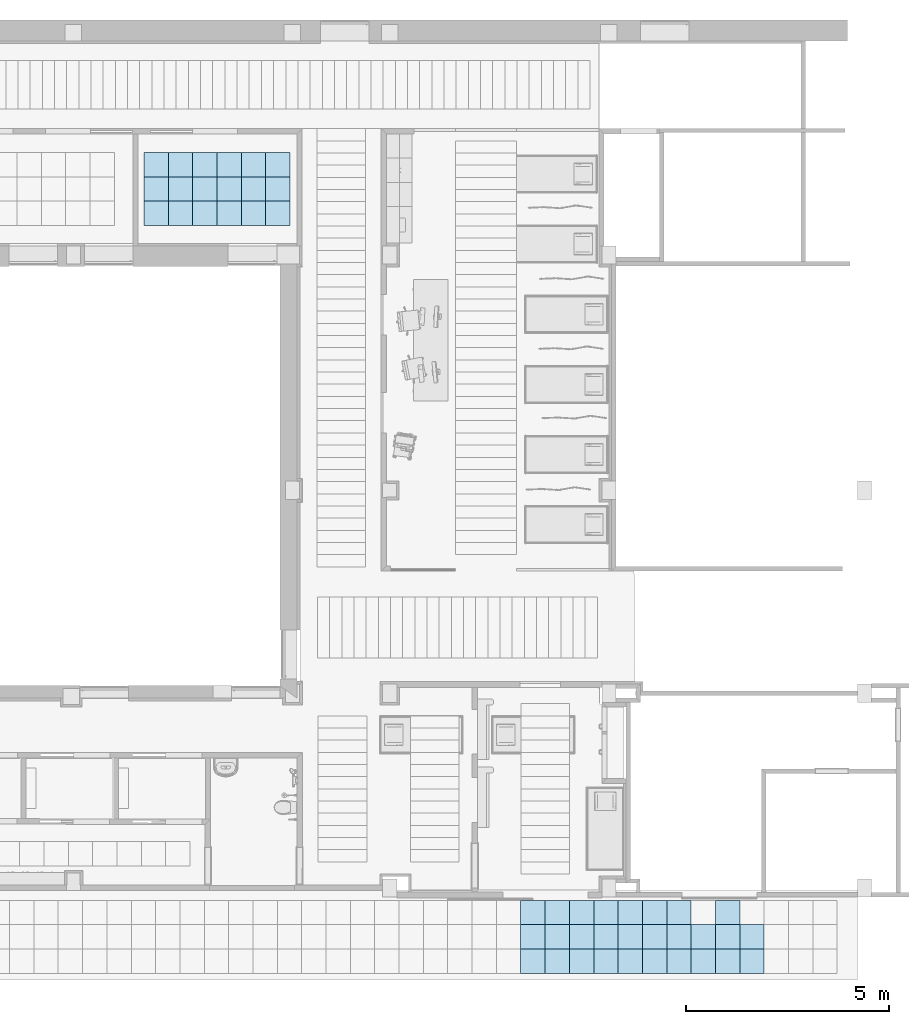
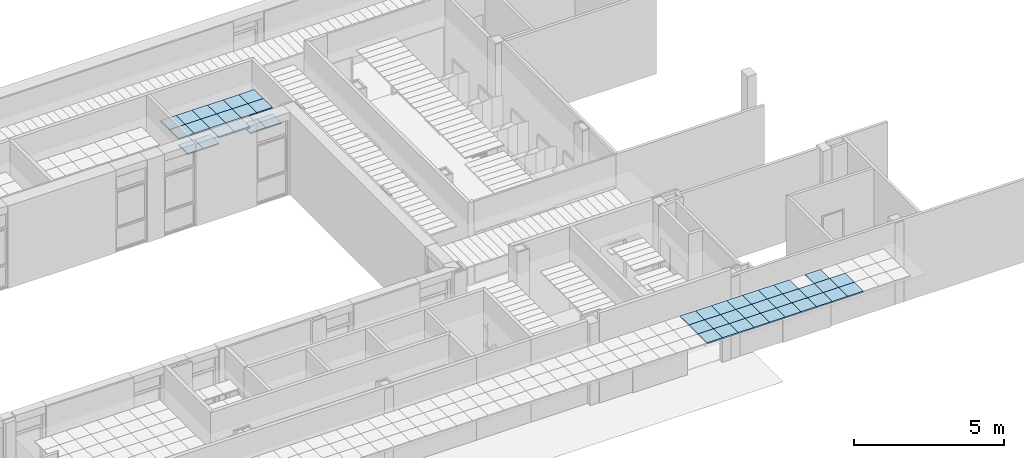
# One storey, part 21 of 68: 46 slabs.
"""IFC2X3 building model written with IfcOpenShell, lengths in millimetres."""

from ifc_helpers import new_model, entity, si_unit, converted_unit, derived_unit, money_unit, direction, frame, origin_with_axes, place, context, subcontext, project, spatial, polyline, outline, extrude, material, layer, layer_set, layer_usage, type_object, element, save


model = new_model("IFC2X3")

# Units and contexts
model_context = context("Model", 3, precision=0.01, world=origin_with_axes(), true_north=direction((0.0, 1.0)))
body_context = subcontext(model_context, "Body", "Model", "MODEL_VIEW")
ifc_project = project(units=[si_unit("LENGTHUNIT", "METRE", prefix="MILLI"), si_unit("AREAUNIT", "SQUARE_METRE"), si_unit("VOLUMEUNIT", "CUBIC_METRE"), converted_unit("PLANEANGLEUNIT", "DEGREE", entity("IfcPlaneAngleMeasure", 0.0174532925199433), si_unit("PLANEANGLEUNIT", "RADIAN"), dimensions=[0, 0, 0, 0, 0, 0, 0]), money_unit("USD"), converted_unit("TIMEUNIT", "Year", entity("IfcTimeMeasure", 31557600.0), si_unit("TIMEUNIT", "SECOND"), dimensions=[0, 0, 1, 0, 0, 0, 0]), si_unit("MASSUNIT", "GRAM", prefix="KILO"), si_unit("THERMODYNAMICTEMPERATUREUNIT", "DEGREE_CELSIUS"), si_unit("LUMINOUSINTENSITYUNIT", "LUMEN"), si_unit("ENERGYUNIT", "JOULE", prefix="MEGA"), derived_unit("THERMALCONDUCTANCEUNIT", [(si_unit("POWERUNIT", "WATT"), 1), (si_unit("LENGTHUNIT", "METRE"), -1), (si_unit("THERMODYNAMICTEMPERATUREUNIT", "KELVIN"), -1)]), derived_unit("SPECIFICHEATCAPACITYUNIT", [(si_unit("ENERGYUNIT", "JOULE"), 1), (si_unit("MASSUNIT", "GRAM", prefix="KILO"), -1), (si_unit("THERMODYNAMICTEMPERATUREUNIT", "KELVIN"), -1)]), derived_unit("MASSDENSITYUNIT", [(si_unit("MASSUNIT", "GRAM", prefix="KILO"), 1), (si_unit("VOLUMEUNIT", "CUBIC_METRE"), -1)])], contexts=[model_context])

# Site, building, storey
site_placement = place(None, origin_with_axes())
site = spatial("IfcSite", under=ifc_project, at=site_placement, Name="Sitio", CompositionType="ELEMENT")
building_placement = place(site_placement, origin_with_axes())
building = spatial("IfcBuilding", under=site, at=building_placement, Name="Construcción", CompositionType="ELEMENT")
storey_placement = place(building_placement, origin_with_axes())
storey = spatial("IfcBuildingStorey", under=building, at=storey_placement, Name="PLANTA 1ª", CompositionType="ELEMENT", Elevation=0.0)

# Slabs
ifc_material = material(Name="ARQ_CE217_Armstrong 60x60")
ifc_layer = layer(ifc_material, 50.0, ventilated="UNKNOWN")
ifc_layer_set = layer_set([ifc_layer], Name="ARQ_CE217_Armstrong 60x60 50")
ifc_layer_usage_1 = layer_usage(ifc_layer_set, "AXIS3", "NEGATIVE", 50.0)
slab_type = type_object("IfcSlabType", Name="ARQ_CE217_Armstrong 60x60 50", PredefinedType="NOTDEFINED")
slab_1_placement = place(storey_placement, frame((3830.29671663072, -17921.97576450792, 2500.0), z_axis=(0.0, 0.0, 1.0), x_axis=(1.0, 0.0, 0.0)))
element("IfcSlab", 1, at=slab_1_placement, inside=storey, type_object=slab_type, material=ifc_layer_usage_1, Name="SLA - 026", PredefinedType="NOTDEFINED", context=body_context, shape_type="SweptSolid", body=[
    extrude(outline(polyline([(0.0, 0.0), (600.0000000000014, 0.0), (600.0000000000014, 600.0000000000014), (0.0, 600.0000000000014), (0.0, 0.0)])), frame((0.0, 0.0, -50.0), z_axis=(0.0, 0.0, 1.0), x_axis=(1.0, 0.0, 0.0)), (0.0, 0.0, 1.0), 50.0),
])
ifc_layer_usage_2 = layer_usage(ifc_layer_set, "AXIS3", "NEGATIVE", 50.0)
slab_2_placement = place(storey_placement, frame((-3054.95423099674, -87.06143878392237, 2500.0), z_axis=(0.0, 0.0, 1.0), x_axis=(1.0, 0.0, 0.0)))
element("IfcSlab", 2, at=slab_2_placement, inside=storey, type_object=slab_type, material=ifc_layer_usage_2, Name="SLA - 026", PredefinedType="NOTDEFINED", context=body_context, shape_type="SweptSolid", body=[
    extrude(outline(polyline([(0.0, 0.0), (599.9999999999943, 0.0), (599.9999999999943, 600.0000000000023), (0.0, 600.0000000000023), (0.0, 0.0)])), frame((0.0, 0.0, -50.0), z_axis=(0.0, 0.0, 1.0), x_axis=(1.0, 0.0, 0.0)), (0.0, 0.0, 1.0), 50.0),
])
ifc_layer_usage_3 = layer_usage(ifc_layer_set, "AXIS3", "NEGATIVE", 50.0)
slab_3_placement = place(storey_placement, frame((-4254.954230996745, -687.0614387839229, 2500.0), z_axis=(0.0, 0.0, 1.0), x_axis=(1.0, 0.0, 0.0)))
element("IfcSlab", 3, at=slab_3_placement, inside=storey, type_object=slab_type, material=ifc_layer_usage_3, Name="SLA - 026", PredefinedType="NOTDEFINED", context=body_context, shape_type="SweptSolid", body=[
    extrude(outline(polyline([(0.0, 0.0), (600.0000000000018, 0.0), (600.0000000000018, 600.0000000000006), (0.0, 600.0000000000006), (0.0, 0.0)])), frame((0.0, 0.0, -50.0), z_axis=(0.0, 0.0, 1.0), x_axis=(1.0, 0.0, 0.0)), (0.0, 0.0, 1.0), 50.0),
])
ifc_layer_usage_4 = layer_usage(ifc_layer_set, "AXIS3", "NEGATIVE", 50.0)
slab_4_placement = place(storey_placement, frame((-2454.954230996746, 512.93856121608, 2500.0), z_axis=(0.0, 0.0, 1.0), x_axis=(1.0, 0.0, 0.0)))
element("IfcSlab", 4, at=slab_4_placement, inside=storey, type_object=slab_type, material=ifc_layer_usage_4, Name="SLA - 026", PredefinedType="NOTDEFINED", context=body_context, shape_type="SweptSolid", body=[
    extrude(outline(polyline([(0.0, 0.0), (600.0000000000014, 0.0), (600.0000000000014, 600.0000000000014), (0.0, 600.0000000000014), (0.0, 0.0)])), frame((0.0, 0.0, -50.0), z_axis=(0.0, 0.0, 1.0), x_axis=(1.0, 0.0, 0.0)), (0.0, 0.0, 1.0), 50.0),
])
ifc_layer_usage_5 = layer_usage(ifc_layer_set, "AXIS3", "NEGATIVE", 50.0)
slab_5_placement = place(storey_placement, frame((-3654.954230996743, -687.0614387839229, 2500.0), z_axis=(0.0, 0.0, 1.0), x_axis=(1.0, 0.0, 0.0)))
element("IfcSlab", 5, at=slab_5_placement, inside=storey, type_object=slab_type, material=ifc_layer_usage_5, Name="SLA - 026", PredefinedType="NOTDEFINED", context=body_context, shape_type="SweptSolid", body=[
    extrude(outline(polyline([(0.0, 0.0), (600.0000000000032, 0.0), (600.0000000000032, 600.0000000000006), (0.0, 600.0000000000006), (0.0, 0.0)])), frame((0.0, 0.0, -50.0), z_axis=(0.0, 0.0, 1.0), x_axis=(1.0, 0.0, 0.0)), (0.0, 0.0, 1.0), 50.0),
])
ifc_layer_usage_6 = layer_usage(ifc_layer_set, "AXIS3", "NEGATIVE", 50.0)
slab_6_placement = place(storey_placement, frame((-3054.95423099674, -687.0614387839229, 2250.0), z_axis=(0.0, 0.0, 1.0), x_axis=(1.0, 0.0, 0.0)))
element("IfcSlab", 6, at=slab_6_placement, inside=storey, type_object=slab_type, material=ifc_layer_usage_6, Name="SLA - 026", PredefinedType="NOTDEFINED", context=body_context, shape_type="SweptSolid", body=[
    extrude(outline(polyline([(0.0, 0.0), (599.9999999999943, 0.0), (599.9999999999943, 600.0000000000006), (0.0, 600.0000000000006), (0.0, 0.0)])), frame((0.0, 0.0, -50.0), z_axis=(0.0, 0.0, 1.0), x_axis=(1.0, 0.0, 0.0)), (0.0, 0.0, 1.0), 50.0),
])
ifc_layer_usage_7 = layer_usage(ifc_layer_set, "AXIS3", "NEGATIVE", 50.0)
slab_7_placement = place(storey_placement, frame((-4254.954230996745, -87.06143878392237, 2500.0), z_axis=(0.0, 0.0, 1.0), x_axis=(1.0, 0.0, 0.0)))
element("IfcSlab", 7, at=slab_7_placement, inside=storey, type_object=slab_type, material=ifc_layer_usage_7, Name="SLA - 026", PredefinedType="NOTDEFINED", context=body_context, shape_type="SweptSolid", body=[
    extrude(outline(polyline([(0.0, 0.0), (600.0000000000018, 0.0), (600.0000000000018, 600.0000000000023), (0.0, 600.0000000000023), (0.0, 0.0)])), frame((0.0, 0.0, -50.0), z_axis=(0.0, 0.0, 1.0), x_axis=(1.0, 0.0, 0.0)), (0.0, 0.0, 1.0), 50.0),
])
ifc_layer_usage_8 = layer_usage(ifc_layer_set, "AXIS3", "NEGATIVE", 50.0)
slab_8_placement = place(storey_placement, frame((-3654.954230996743, -87.06143878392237, 2500.0), z_axis=(0.0, 0.0, 1.0), x_axis=(1.0, 0.0, 0.0)))
element("IfcSlab", 8, at=slab_8_placement, inside=storey, type_object=slab_type, material=ifc_layer_usage_8, Name="SLA - 026", PredefinedType="NOTDEFINED", context=body_context, shape_type="SweptSolid", body=[
    extrude(outline(polyline([(0.0, 0.0), (600.0000000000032, 0.0), (600.0000000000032, 600.0000000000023), (0.0, 600.0000000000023), (0.0, 0.0)])), frame((0.0, 0.0, -50.0), z_axis=(0.0, 0.0, 1.0), x_axis=(1.0, 0.0, 0.0)), (0.0, 0.0, 1.0), 50.0),
])
ifc_layer_usage_9 = layer_usage(ifc_layer_set, "AXIS3", "NEGATIVE", 50.0)
slab_9_placement = place(storey_placement, frame((-3054.95423099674, 512.93856121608, 2500.0), z_axis=(0.0, 0.0, 1.0), x_axis=(1.0, 0.0, 0.0)))
element("IfcSlab", 9, at=slab_9_placement, inside=storey, type_object=slab_type, material=ifc_layer_usage_9, Name="SLA - 026", PredefinedType="NOTDEFINED", context=body_context, shape_type="SweptSolid", body=[
    extrude(outline(polyline([(0.0, 0.0), (599.9999999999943, 0.0), (599.9999999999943, 600.0000000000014), (0.0, 600.0000000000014), (0.0, 0.0)])), frame((0.0, 0.0, -50.0), z_axis=(0.0, 0.0, 1.0), x_axis=(1.0, 0.0, 0.0)), (0.0, 0.0, 1.0), 50.0),
])
ifc_layer_usage_10 = layer_usage(ifc_layer_set, "AXIS3", "NEGATIVE", 50.0)
slab_10_placement = place(storey_placement, frame((-3654.954230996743, 512.93856121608, 2500.0), z_axis=(0.0, 0.0, 1.0), x_axis=(1.0, 0.0, 0.0)))
element("IfcSlab", 10, at=slab_10_placement, inside=storey, type_object=slab_type, material=ifc_layer_usage_10, Name="SLA - 026", PredefinedType="NOTDEFINED", context=body_context, shape_type="SweptSolid", body=[
    extrude(outline(polyline([(0.0, 0.0), (600.0000000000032, 0.0), (600.0000000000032, 600.0000000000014), (0.0, 600.0000000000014), (0.0, 0.0)])), frame((0.0, 0.0, -50.0), z_axis=(0.0, 0.0, 1.0), x_axis=(1.0, 0.0, 0.0)), (0.0, 0.0, 1.0), 50.0),
])
ifc_layer_usage_11 = layer_usage(ifc_layer_set, "AXIS3", "NEGATIVE", 50.0)
slab_11_placement = place(storey_placement, frame((-2454.954230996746, -87.06143878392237, 2500.0), z_axis=(0.0, 0.0, 1.0), x_axis=(1.0, 0.0, 0.0)))
element("IfcSlab", 11, at=slab_11_placement, inside=storey, type_object=slab_type, material=ifc_layer_usage_11, Name="SLA - 026", PredefinedType="NOTDEFINED", context=body_context, shape_type="SweptSolid", body=[
    extrude(outline(polyline([(0.0, 0.0), (600.0000000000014, 0.0), (600.0000000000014, 600.0000000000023), (0.0, 600.0000000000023), (0.0, 0.0)])), frame((0.0, 0.0, -50.0), z_axis=(0.0, 0.0, 1.0), x_axis=(1.0, 0.0, 0.0)), (0.0, 0.0, 1.0), 50.0),
])
ifc_layer_usage_12 = layer_usage(ifc_layer_set, "AXIS3", "NEGATIVE", 50.0)
slab_12_placement = place(storey_placement, frame((-4854.954230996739, -687.0614387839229, 2250.0), z_axis=(0.0, 0.0, 1.0), x_axis=(1.0, 0.0, 0.0)))
element("IfcSlab", 12, at=slab_12_placement, inside=storey, type_object=slab_type, material=ifc_layer_usage_12, Name="SLA - 026", PredefinedType="NOTDEFINED", context=body_context, shape_type="SweptSolid", body=[
    extrude(outline(polyline([(0.0, 0.0), (599.9999999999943, 0.0), (599.9999999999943, 600.0000000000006), (0.0, 600.0000000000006), (0.0, 0.0)])), frame((0.0, 0.0, -50.0), z_axis=(0.0, 0.0, 1.0), x_axis=(1.0, 0.0, 0.0)), (0.0, 0.0, 1.0), 50.0),
])
ifc_layer_usage_13 = layer_usage(ifc_layer_set, "AXIS3", "NEGATIVE", 50.0)
slab_13_placement = place(storey_placement, frame((-5454.954230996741, -687.0614387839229, 2250.0), z_axis=(0.0, 0.0, 1.0), x_axis=(1.0, 0.0, 0.0)))
element("IfcSlab", 13, at=slab_13_placement, inside=storey, type_object=slab_type, material=ifc_layer_usage_13, Name="SLA - 026", PredefinedType="NOTDEFINED", context=body_context, shape_type="SweptSolid", body=[
    extrude(outline(polyline([(0.0, 0.0), (600.0000000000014, 0.0), (600.0000000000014, 600.0000000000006), (0.0, 600.0000000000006), (0.0, 0.0)])), frame((0.0, 0.0, -50.0), z_axis=(0.0, 0.0, 1.0), x_axis=(1.0, 0.0, 0.0)), (0.0, 0.0, 1.0), 50.0),
])
ifc_layer_usage_14 = layer_usage(ifc_layer_set, "AXIS3", "NEGATIVE", 50.0)
slab_14_placement = place(storey_placement, frame((-2454.954230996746, -687.0614387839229, 2250.0), z_axis=(0.0, 0.0, 1.0), x_axis=(1.0, 0.0, 0.0)))
element("IfcSlab", 14, at=slab_14_placement, inside=storey, type_object=slab_type, material=ifc_layer_usage_14, Name="SLA - 026", PredefinedType="NOTDEFINED", context=body_context, shape_type="SweptSolid", body=[
    extrude(outline(polyline([(0.0, 0.0), (600.0000000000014, 0.0), (600.0000000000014, 600.0000000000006), (0.0, 600.0000000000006), (0.0, 0.0)])), frame((0.0, 0.0, -50.0), z_axis=(0.0, 0.0, 1.0), x_axis=(1.0, 0.0, 0.0)), (0.0, 0.0, 1.0), 50.0),
])
ifc_layer_usage_15 = layer_usage(ifc_layer_set, "AXIS3", "NEGATIVE", 50.0)
slab_15_placement = place(storey_placement, frame((-4854.954230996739, -87.06143878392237, 2500.0), z_axis=(0.0, 0.0, 1.0), x_axis=(1.0, 0.0, 0.0)))
element("IfcSlab", 15, at=slab_15_placement, inside=storey, type_object=slab_type, material=ifc_layer_usage_15, Name="SLA - 026", PredefinedType="NOTDEFINED", context=body_context, shape_type="SweptSolid", body=[
    extrude(outline(polyline([(0.0, 0.0), (599.9999999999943, 0.0), (599.9999999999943, 600.0000000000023), (0.0, 600.0000000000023), (0.0, 0.0)])), frame((0.0, 0.0, -50.0), z_axis=(0.0, 0.0, 1.0), x_axis=(1.0, 0.0, 0.0)), (0.0, 0.0, 1.0), 50.0),
])
ifc_layer_usage_16 = layer_usage(ifc_layer_set, "AXIS3", "NEGATIVE", 50.0)
slab_16_placement = place(storey_placement, frame((-4254.954230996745, 512.93856121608, 2500.0), z_axis=(0.0, 0.0, 1.0), x_axis=(1.0, 0.0, 0.0)))
element("IfcSlab", 16, at=slab_16_placement, inside=storey, type_object=slab_type, material=ifc_layer_usage_16, Name="SLA - 026", PredefinedType="NOTDEFINED", context=body_context, shape_type="SweptSolid", body=[
    extrude(outline(polyline([(0.0, 0.0), (600.0000000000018, 0.0), (600.0000000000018, 600.0000000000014), (0.0, 600.0000000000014), (0.0, 0.0)])), frame((0.0, 0.0, -50.0), z_axis=(0.0, 0.0, 1.0), x_axis=(1.0, 0.0, 0.0)), (0.0, 0.0, 1.0), 50.0),
])
ifc_layer_usage_17 = layer_usage(ifc_layer_set, "AXIS3", "NEGATIVE", 50.0)
slab_17_placement = place(storey_placement, frame((-5454.954230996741, 512.93856121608, 2500.0), z_axis=(0.0, 0.0, 1.0), x_axis=(1.0, 0.0, 0.0)))
element("IfcSlab", 17, at=slab_17_placement, inside=storey, type_object=slab_type, material=ifc_layer_usage_17, Name="SLA - 026", PredefinedType="NOTDEFINED", context=body_context, shape_type="SweptSolid", body=[
    extrude(outline(polyline([(0.0, 0.0), (600.0000000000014, 0.0), (600.0000000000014, 600.0000000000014), (0.0, 600.0000000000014), (0.0, 0.0)])), frame((0.0, 0.0, -50.0), z_axis=(0.0, 0.0, 1.0), x_axis=(1.0, 0.0, 0.0)), (0.0, 0.0, 1.0), 50.0),
])
ifc_layer_usage_18 = layer_usage(ifc_layer_set, "AXIS3", "NEGATIVE", 50.0)
slab_18_placement = place(storey_placement, frame((-5454.954230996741, -87.06143878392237, 2500.0), z_axis=(0.0, 0.0, 1.0), x_axis=(1.0, 0.0, 0.0)))
element("IfcSlab", 18, at=slab_18_placement, inside=storey, type_object=slab_type, material=ifc_layer_usage_18, Name="SLA - 026", PredefinedType="NOTDEFINED", context=body_context, shape_type="SweptSolid", body=[
    extrude(outline(polyline([(0.0, 0.0), (600.0000000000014, 0.0), (600.0000000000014, 600.0000000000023), (0.0, 600.0000000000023), (0.0, 0.0)])), frame((0.0, 0.0, -50.0), z_axis=(0.0, 0.0, 1.0), x_axis=(1.0, 0.0, 0.0)), (0.0, 0.0, 1.0), 50.0),
])
ifc_layer_usage_19 = layer_usage(ifc_layer_set, "AXIS3", "NEGATIVE", 50.0)
slab_19_placement = place(storey_placement, frame((-4854.954230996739, 512.93856121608, 2500.0), z_axis=(0.0, 0.0, 1.0), x_axis=(1.0, 0.0, 0.0)))
element("IfcSlab", 19, at=slab_19_placement, inside=storey, type_object=slab_type, material=ifc_layer_usage_19, Name="SLA - 026", PredefinedType="NOTDEFINED", context=body_context, shape_type="SweptSolid", body=[
    extrude(outline(polyline([(0.0, 0.0), (599.9999999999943, 0.0), (599.9999999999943, 600.0000000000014), (0.0, 600.0000000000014), (0.0, 0.0)])), frame((0.0, 0.0, -50.0), z_axis=(0.0, 0.0, 1.0), x_axis=(1.0, 0.0, 0.0)), (0.0, 0.0, 1.0), 50.0),
])
ifc_layer_usage_20 = layer_usage(ifc_layer_set, "AXIS3", "NEGATIVE", 50.0)
slab_20_placement = place(storey_placement, frame((9230.296716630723, -18521.97576450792, 2500.0), z_axis=(0.0, 0.0, 1.0), x_axis=(1.0, 0.0, 0.0)))
element("IfcSlab", 20, at=slab_20_placement, inside=storey, type_object=slab_type, material=ifc_layer_usage_20, Name="SLA - 026", PredefinedType="NOTDEFINED", context=body_context, shape_type="SweptSolid", body=[
    extrude(outline(polyline([(0.0, 0.0), (600.0000000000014, 0.0), (600.0000000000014, 600.0000000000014), (0.0, 600.0000000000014), (0.0, 0.0)])), frame((0.0, 0.0, -50.0), z_axis=(0.0, 0.0, 1.0), x_axis=(1.0, 0.0, 0.0)), (0.0, 0.0, 1.0), 50.0),
])
ifc_layer_usage_21 = layer_usage(ifc_layer_set, "AXIS3", "NEGATIVE", 50.0)
slab_21_placement = place(storey_placement, frame((9230.296716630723, -19121.97576450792, 2500.0), z_axis=(0.0, 0.0, 1.0), x_axis=(1.0, 0.0, 0.0)))
element("IfcSlab", 21, at=slab_21_placement, inside=storey, type_object=slab_type, material=ifc_layer_usage_21, Name="SLA - 026", PredefinedType="NOTDEFINED", context=body_context, shape_type="SweptSolid", body=[
    extrude(outline(polyline([(0.0, 0.0), (600.0000000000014, 0.0), (600.0000000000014, 600.0000000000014), (0.0, 600.0000000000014), (0.0, 0.0)])), frame((0.0, 0.0, -50.0), z_axis=(0.0, 0.0, 1.0), x_axis=(1.0, 0.0, 0.0)), (0.0, 0.0, 1.0), 50.0),
])
ifc_layer_usage_22 = layer_usage(ifc_layer_set, "AXIS3", "NEGATIVE", 50.0)
slab_22_placement = place(storey_placement, frame((8630.29671663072, -17921.97576450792, 2500.0), z_axis=(0.0, 0.0, 1.0), x_axis=(1.0, 0.0, 0.0)))
element("IfcSlab", 22, at=slab_22_placement, inside=storey, type_object=slab_type, material=ifc_layer_usage_22, Name="SLA - 026", PredefinedType="NOTDEFINED", context=body_context, shape_type="SweptSolid", body=[
    extrude(outline(polyline([(0.0, 0.0), (600.0000000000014, 0.0), (600.0000000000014, 600.0000000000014), (0.0, 600.0000000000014), (0.0, 0.0)])), frame((0.0, 0.0, -50.0), z_axis=(0.0, 0.0, 1.0), x_axis=(1.0, 0.0, 0.0)), (0.0, 0.0, 1.0), 50.0),
])
ifc_layer_usage_23 = layer_usage(ifc_layer_set, "AXIS3", "NEGATIVE", 50.0)
slab_23_placement = place(storey_placement, frame((8630.29671663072, -18521.97576450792, 2500.0), z_axis=(0.0, 0.0, 1.0), x_axis=(1.0, 0.0, 0.0)))
element("IfcSlab", 23, at=slab_23_placement, inside=storey, type_object=slab_type, material=ifc_layer_usage_23, Name="SLA - 026", PredefinedType="NOTDEFINED", context=body_context, shape_type="SweptSolid", body=[
    extrude(outline(polyline([(0.0, 0.0), (600.0000000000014, 0.0), (600.0000000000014, 600.0000000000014), (0.0, 600.0000000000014), (0.0, 0.0)])), frame((0.0, 0.0, -50.0), z_axis=(0.0, 0.0, 1.0), x_axis=(1.0, 0.0, 0.0)), (0.0, 0.0, 1.0), 50.0),
])
ifc_layer_usage_24 = layer_usage(ifc_layer_set, "AXIS3", "NEGATIVE", 50.0)
slab_24_placement = place(storey_placement, frame((8630.29671663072, -19121.97576450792, 2500.0), z_axis=(0.0, 0.0, 1.0), x_axis=(1.0, 0.0, 0.0)))
element("IfcSlab", 24, at=slab_24_placement, inside=storey, type_object=slab_type, material=ifc_layer_usage_24, Name="SLA - 026", PredefinedType="NOTDEFINED", context=body_context, shape_type="SweptSolid", body=[
    extrude(outline(polyline([(0.0, 0.0), (600.0000000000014, 0.0), (600.0000000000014, 600.0000000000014), (0.0, 600.0000000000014), (0.0, 0.0)])), frame((0.0, 0.0, -50.0), z_axis=(0.0, 0.0, 1.0), x_axis=(1.0, 0.0, 0.0)), (0.0, 0.0, 1.0), 50.0),
])
ifc_layer_usage_25 = layer_usage(ifc_layer_set, "AXIS3", "NEGATIVE", 50.0)
slab_25_placement = place(storey_placement, frame((8030.296716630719, -18521.97576450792, 2500.0), z_axis=(0.0, 0.0, 1.0), x_axis=(1.0, 0.0, 0.0)))
element("IfcSlab", 25, at=slab_25_placement, inside=storey, type_object=slab_type, material=ifc_layer_usage_25, Name="SLA - 026", PredefinedType="NOTDEFINED", context=body_context, shape_type="SweptSolid", body=[
    extrude(outline(polyline([(0.0, 0.0), (600.0000000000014, 0.0), (600.0000000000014, 600.0000000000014), (0.0, 600.0000000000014), (0.0, 0.0)])), frame((0.0, 0.0, -50.0), z_axis=(0.0, 0.0, 1.0), x_axis=(1.0, 0.0, 0.0)), (0.0, 0.0, 1.0), 50.0),
])
ifc_layer_usage_26 = layer_usage(ifc_layer_set, "AXIS3", "NEGATIVE", 50.0)
slab_26_placement = place(storey_placement, frame((8030.296716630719, -19121.97576450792, 2500.0), z_axis=(0.0, 0.0, 1.0), x_axis=(1.0, 0.0, 0.0)))
element("IfcSlab", 26, at=slab_26_placement, inside=storey, type_object=slab_type, material=ifc_layer_usage_26, Name="SLA - 026", PredefinedType="NOTDEFINED", context=body_context, shape_type="SweptSolid", body=[
    extrude(outline(polyline([(0.0, 0.0), (600.0000000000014, 0.0), (600.0000000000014, 600.0000000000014), (0.0, 600.0000000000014), (0.0, 0.0)])), frame((0.0, 0.0, -50.0), z_axis=(0.0, 0.0, 1.0), x_axis=(1.0, 0.0, 0.0)), (0.0, 0.0, 1.0), 50.0),
])
ifc_layer_usage_27 = layer_usage(ifc_layer_set, "AXIS3", "NEGATIVE", 50.0)
slab_27_placement = place(storey_placement, frame((7430.296716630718, -17921.97576450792, 2500.0), z_axis=(0.0, 0.0, 1.0), x_axis=(1.0, 0.0, 0.0)))
element("IfcSlab", 27, at=slab_27_placement, inside=storey, type_object=slab_type, material=ifc_layer_usage_27, Name="SLA - 026", PredefinedType="NOTDEFINED", context=body_context, shape_type="SweptSolid", body=[
    extrude(outline(polyline([(0.0, 0.0), (600.0000000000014, 0.0), (600.0000000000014, 600.0000000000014), (0.0, 600.0000000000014), (0.0, 0.0)])), frame((0.0, 0.0, -50.0), z_axis=(0.0, 0.0, 1.0), x_axis=(1.0, 0.0, 0.0)), (0.0, 0.0, 1.0), 50.0),
])
ifc_layer_usage_28 = layer_usage(ifc_layer_set, "AXIS3", "NEGATIVE", 50.0)
slab_28_placement = place(storey_placement, frame((7430.296716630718, -18521.97576450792, 2500.0), z_axis=(0.0, 0.0, 1.0), x_axis=(1.0, 0.0, 0.0)))
element("IfcSlab", 28, at=slab_28_placement, inside=storey, type_object=slab_type, material=ifc_layer_usage_28, Name="SLA - 026", PredefinedType="NOTDEFINED", context=body_context, shape_type="SweptSolid", body=[
    extrude(outline(polyline([(0.0, 0.0), (600.0000000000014, 0.0), (600.0000000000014, 600.0000000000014), (0.0, 600.0000000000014), (0.0, 0.0)])), frame((0.0, 0.0, -50.0), z_axis=(0.0, 0.0, 1.0), x_axis=(1.0, 0.0, 0.0)), (0.0, 0.0, 1.0), 50.0),
])
ifc_layer_usage_29 = layer_usage(ifc_layer_set, "AXIS3", "NEGATIVE", 50.0)
slab_29_placement = place(storey_placement, frame((7430.296716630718, -19121.97576450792, 2500.0), z_axis=(0.0, 0.0, 1.0), x_axis=(1.0, 0.0, 0.0)))
element("IfcSlab", 29, at=slab_29_placement, inside=storey, type_object=slab_type, material=ifc_layer_usage_29, Name="SLA - 026", PredefinedType="NOTDEFINED", context=body_context, shape_type="SweptSolid", body=[
    extrude(outline(polyline([(0.0, 0.0), (600.0000000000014, 0.0), (600.0000000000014, 600.0000000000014), (0.0, 600.0000000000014), (0.0, 0.0)])), frame((0.0, 0.0, -50.0), z_axis=(0.0, 0.0, 1.0), x_axis=(1.0, 0.0, 0.0)), (0.0, 0.0, 1.0), 50.0),
])
ifc_layer_usage_30 = layer_usage(ifc_layer_set, "AXIS3", "NEGATIVE", 50.0)
slab_30_placement = place(storey_placement, frame((6830.296716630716, -17921.97576450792, 2500.0), z_axis=(0.0, 0.0, 1.0), x_axis=(1.0, 0.0, 0.0)))
element("IfcSlab", 30, at=slab_30_placement, inside=storey, type_object=slab_type, material=ifc_layer_usage_30, Name="SLA - 026", PredefinedType="NOTDEFINED", context=body_context, shape_type="SweptSolid", body=[
    extrude(outline(polyline([(0.0, 0.0), (600.0000000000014, 0.0), (600.0000000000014, 600.0000000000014), (0.0, 600.0000000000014), (0.0, 0.0)])), frame((0.0, 0.0, -50.0), z_axis=(0.0, 0.0, 1.0), x_axis=(1.0, 0.0, 0.0)), (0.0, 0.0, 1.0), 50.0),
])
ifc_layer_usage_31 = layer_usage(ifc_layer_set, "AXIS3", "NEGATIVE", 50.0)
slab_31_placement = place(storey_placement, frame((6830.296716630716, -18521.97576450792, 2500.0), z_axis=(0.0, 0.0, 1.0), x_axis=(1.0, 0.0, 0.0)))
element("IfcSlab", 31, at=slab_31_placement, inside=storey, type_object=slab_type, material=ifc_layer_usage_31, Name="SLA - 026", PredefinedType="NOTDEFINED", context=body_context, shape_type="SweptSolid", body=[
    extrude(outline(polyline([(0.0, 0.0), (600.0000000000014, 0.0), (600.0000000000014, 600.0000000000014), (0.0, 600.0000000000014), (0.0, 0.0)])), frame((0.0, 0.0, -50.0), z_axis=(0.0, 0.0, 1.0), x_axis=(1.0, 0.0, 0.0)), (0.0, 0.0, 1.0), 50.0),
])
ifc_layer_usage_32 = layer_usage(ifc_layer_set, "AXIS3", "NEGATIVE", 50.0)
slab_32_placement = place(storey_placement, frame((6830.296716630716, -19121.97576450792, 2500.0), z_axis=(0.0, 0.0, 1.0), x_axis=(1.0, 0.0, 0.0)))
element("IfcSlab", 32, at=slab_32_placement, inside=storey, type_object=slab_type, material=ifc_layer_usage_32, Name="SLA - 026", PredefinedType="NOTDEFINED", context=body_context, shape_type="SweptSolid", body=[
    extrude(outline(polyline([(0.0, 0.0), (600.0000000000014, 0.0), (600.0000000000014, 600.0000000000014), (0.0, 600.0000000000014), (0.0, 0.0)])), frame((0.0, 0.0, -50.0), z_axis=(0.0, 0.0, 1.0), x_axis=(1.0, 0.0, 0.0)), (0.0, 0.0, 1.0), 50.0),
])
ifc_layer_usage_33 = layer_usage(ifc_layer_set, "AXIS3", "NEGATIVE", 50.0)
slab_33_placement = place(storey_placement, frame((6230.296716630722, -17921.97576450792, 2500.0), z_axis=(0.0, 0.0, 1.0), x_axis=(1.0, 0.0, 0.0)))
element("IfcSlab", 33, at=slab_33_placement, inside=storey, type_object=slab_type, material=ifc_layer_usage_33, Name="SLA - 026", PredefinedType="NOTDEFINED", context=body_context, shape_type="SweptSolid", body=[
    extrude(outline(polyline([(0.0, 0.0), (600.0000000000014, 0.0), (600.0000000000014, 600.0000000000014), (0.0, 600.0000000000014), (0.0, 0.0)])), frame((0.0, 0.0, -50.0), z_axis=(0.0, 0.0, 1.0), x_axis=(1.0, 0.0, 0.0)), (0.0, 0.0, 1.0), 50.0),
])
ifc_layer_usage_34 = layer_usage(ifc_layer_set, "AXIS3", "NEGATIVE", 50.0)
slab_34_placement = place(storey_placement, frame((6230.296716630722, -18521.97576450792, 2500.0), z_axis=(0.0, 0.0, 1.0), x_axis=(1.0, 0.0, 0.0)))
element("IfcSlab", 34, at=slab_34_placement, inside=storey, type_object=slab_type, material=ifc_layer_usage_34, Name="SLA - 026", PredefinedType="NOTDEFINED", context=body_context, shape_type="SweptSolid", body=[
    extrude(outline(polyline([(0.0, 0.0), (600.0000000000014, 0.0), (600.0000000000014, 600.0000000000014), (0.0, 600.0000000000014), (0.0, 0.0)])), frame((0.0, 0.0, -50.0), z_axis=(0.0, 0.0, 1.0), x_axis=(1.0, 0.0, 0.0)), (0.0, 0.0, 1.0), 50.0),
])
ifc_layer_usage_35 = layer_usage(ifc_layer_set, "AXIS3", "NEGATIVE", 50.0)
slab_35_placement = place(storey_placement, frame((6230.296716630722, -19121.97576450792, 2500.0), z_axis=(0.0, 0.0, 1.0), x_axis=(1.0, 0.0, 0.0)))
element("IfcSlab", 35, at=slab_35_placement, inside=storey, type_object=slab_type, material=ifc_layer_usage_35, Name="SLA - 026", PredefinedType="NOTDEFINED", context=body_context, shape_type="SweptSolid", body=[
    extrude(outline(polyline([(0.0, 0.0), (600.0000000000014, 0.0), (600.0000000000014, 600.0000000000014), (0.0, 600.0000000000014), (0.0, 0.0)])), frame((0.0, 0.0, -50.0), z_axis=(0.0, 0.0, 1.0), x_axis=(1.0, 0.0, 0.0)), (0.0, 0.0, 1.0), 50.0),
])
ifc_layer_usage_36 = layer_usage(ifc_layer_set, "AXIS3", "NEGATIVE", 50.0)
slab_36_placement = place(storey_placement, frame((5630.296716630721, -17921.97576450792, 2500.0), z_axis=(0.0, 0.0, 1.0), x_axis=(1.0, 0.0, 0.0)))
element("IfcSlab", 36, at=slab_36_placement, inside=storey, type_object=slab_type, material=ifc_layer_usage_36, Name="SLA - 026", PredefinedType="NOTDEFINED", context=body_context, shape_type="SweptSolid", body=[
    extrude(outline(polyline([(0.0, 0.0), (600.0000000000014, 0.0), (600.0000000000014, 600.0000000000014), (0.0, 600.0000000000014), (0.0, 0.0)])), frame((0.0, 0.0, -50.0), z_axis=(0.0, 0.0, 1.0), x_axis=(1.0, 0.0, 0.0)), (0.0, 0.0, 1.0), 50.0),
])
ifc_layer_usage_37 = layer_usage(ifc_layer_set, "AXIS3", "NEGATIVE", 50.0)
slab_37_placement = place(storey_placement, frame((5630.296716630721, -18521.97576450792, 2500.0), z_axis=(0.0, 0.0, 1.0), x_axis=(1.0, 0.0, 0.0)))
element("IfcSlab", 37, at=slab_37_placement, inside=storey, type_object=slab_type, material=ifc_layer_usage_37, Name="SLA - 026", PredefinedType="NOTDEFINED", context=body_context, shape_type="SweptSolid", body=[
    extrude(outline(polyline([(0.0, 0.0), (600.0000000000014, 0.0), (600.0000000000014, 600.0000000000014), (0.0, 600.0000000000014), (0.0, 0.0)])), frame((0.0, 0.0, -50.0), z_axis=(0.0, 0.0, 1.0), x_axis=(1.0, 0.0, 0.0)), (0.0, 0.0, 1.0), 50.0),
])
ifc_layer_usage_38 = layer_usage(ifc_layer_set, "AXIS3", "NEGATIVE", 50.0)
slab_38_placement = place(storey_placement, frame((5630.296716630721, -19121.97576450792, 2500.0), z_axis=(0.0, 0.0, 1.0), x_axis=(1.0, 0.0, 0.0)))
element("IfcSlab", 38, at=slab_38_placement, inside=storey, type_object=slab_type, material=ifc_layer_usage_38, Name="SLA - 026", PredefinedType="NOTDEFINED", context=body_context, shape_type="SweptSolid", body=[
    extrude(outline(polyline([(0.0, 0.0), (600.0000000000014, 0.0), (600.0000000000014, 600.0000000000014), (0.0, 600.0000000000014), (0.0, 0.0)])), frame((0.0, 0.0, -50.0), z_axis=(0.0, 0.0, 1.0), x_axis=(1.0, 0.0, 0.0)), (0.0, 0.0, 1.0), 50.0),
])
ifc_layer_usage_39 = layer_usage(ifc_layer_set, "AXIS3", "NEGATIVE", 50.0)
slab_39_placement = place(storey_placement, frame((5030.296716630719, -17921.97576450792, 2500.0), z_axis=(0.0, 0.0, 1.0), x_axis=(1.0, 0.0, 0.0)))
element("IfcSlab", 39, at=slab_39_placement, inside=storey, type_object=slab_type, material=ifc_layer_usage_39, Name="SLA - 026", PredefinedType="NOTDEFINED", context=body_context, shape_type="SweptSolid", body=[
    extrude(outline(polyline([(0.0, 0.0), (600.0000000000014, 0.0), (600.0000000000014, 600.0000000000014), (0.0, 600.0000000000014), (0.0, 0.0)])), frame((0.0, 0.0, -50.0), z_axis=(0.0, 0.0, 1.0), x_axis=(1.0, 0.0, 0.0)), (0.0, 0.0, 1.0), 50.0),
])
ifc_layer_usage_40 = layer_usage(ifc_layer_set, "AXIS3", "NEGATIVE", 50.0)
slab_40_placement = place(storey_placement, frame((5030.296716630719, -18521.97576450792, 2500.0), z_axis=(0.0, 0.0, 1.0), x_axis=(1.0, 0.0, 0.0)))
element("IfcSlab", 40, at=slab_40_placement, inside=storey, type_object=slab_type, material=ifc_layer_usage_40, Name="SLA - 026", PredefinedType="NOTDEFINED", context=body_context, shape_type="SweptSolid", body=[
    extrude(outline(polyline([(0.0, 0.0), (600.0000000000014, 0.0), (600.0000000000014, 600.0000000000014), (0.0, 600.0000000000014), (0.0, 0.0)])), frame((0.0, 0.0, -50.0), z_axis=(0.0, 0.0, 1.0), x_axis=(1.0, 0.0, 0.0)), (0.0, 0.0, 1.0), 50.0),
])
ifc_layer_usage_41 = layer_usage(ifc_layer_set, "AXIS3", "NEGATIVE", 50.0)
slab_41_placement = place(storey_placement, frame((5030.296716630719, -19121.97576450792, 2500.0), z_axis=(0.0, 0.0, 1.0), x_axis=(1.0, 0.0, 0.0)))
element("IfcSlab", 41, at=slab_41_placement, inside=storey, type_object=slab_type, material=ifc_layer_usage_41, Name="SLA - 026", PredefinedType="NOTDEFINED", context=body_context, shape_type="SweptSolid", body=[
    extrude(outline(polyline([(0.0, 0.0), (600.0000000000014, 0.0), (600.0000000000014, 600.0000000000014), (0.0, 600.0000000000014), (0.0, 0.0)])), frame((0.0, 0.0, -50.0), z_axis=(0.0, 0.0, 1.0), x_axis=(1.0, 0.0, 0.0)), (0.0, 0.0, 1.0), 50.0),
])
ifc_layer_usage_42 = layer_usage(ifc_layer_set, "AXIS3", "NEGATIVE", 50.0)
slab_42_placement = place(storey_placement, frame((4430.296716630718, -17921.97576450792, 2500.0), z_axis=(0.0, 0.0, 1.0), x_axis=(1.0, 0.0, 0.0)))
element("IfcSlab", 42, at=slab_42_placement, inside=storey, type_object=slab_type, material=ifc_layer_usage_42, Name="SLA - 026", PredefinedType="NOTDEFINED", context=body_context, shape_type="SweptSolid", body=[
    extrude(outline(polyline([(0.0, 0.0), (600.0000000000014, 0.0), (600.0000000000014, 600.0000000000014), (0.0, 600.0000000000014), (0.0, 0.0)])), frame((0.0, 0.0, -50.0), z_axis=(0.0, 0.0, 1.0), x_axis=(1.0, 0.0, 0.0)), (0.0, 0.0, 1.0), 50.0),
])
ifc_layer_usage_43 = layer_usage(ifc_layer_set, "AXIS3", "NEGATIVE", 50.0)
slab_43_placement = place(storey_placement, frame((4430.296716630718, -18521.97576450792, 2500.0), z_axis=(0.0, 0.0, 1.0), x_axis=(1.0, 0.0, 0.0)))
element("IfcSlab", 43, at=slab_43_placement, inside=storey, type_object=slab_type, material=ifc_layer_usage_43, Name="SLA - 026", PredefinedType="NOTDEFINED", context=body_context, shape_type="SweptSolid", body=[
    extrude(outline(polyline([(0.0, 0.0), (600.0000000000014, 0.0), (600.0000000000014, 600.0000000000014), (0.0, 600.0000000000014), (0.0, 0.0)])), frame((0.0, 0.0, -50.0), z_axis=(0.0, 0.0, 1.0), x_axis=(1.0, 0.0, 0.0)), (0.0, 0.0, 1.0), 50.0),
])
ifc_layer_usage_44 = layer_usage(ifc_layer_set, "AXIS3", "NEGATIVE", 50.0)
slab_44_placement = place(storey_placement, frame((4430.296716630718, -19121.97576450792, 2500.0), z_axis=(0.0, 0.0, 1.0), x_axis=(1.0, 0.0, 0.0)))
element("IfcSlab", 44, at=slab_44_placement, inside=storey, type_object=slab_type, material=ifc_layer_usage_44, Name="SLA - 026", PredefinedType="NOTDEFINED", context=body_context, shape_type="SweptSolid", body=[
    extrude(outline(polyline([(0.0, 0.0), (600.0000000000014, 0.0), (600.0000000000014, 600.0000000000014), (0.0, 600.0000000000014), (0.0, 0.0)])), frame((0.0, 0.0, -50.0), z_axis=(0.0, 0.0, 1.0), x_axis=(1.0, 0.0, 0.0)), (0.0, 0.0, 1.0), 50.0),
])
ifc_layer_usage_45 = layer_usage(ifc_layer_set, "AXIS3", "NEGATIVE", 50.0)
slab_45_placement = place(storey_placement, frame((3830.29671663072, -19121.97576450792, 2500.0), z_axis=(0.0, 0.0, 1.0), x_axis=(1.0, 0.0, 0.0)))
element("IfcSlab", 45, at=slab_45_placement, inside=storey, type_object=slab_type, material=ifc_layer_usage_45, Name="SLA - 026", PredefinedType="NOTDEFINED", context=body_context, shape_type="SweptSolid", body=[
    extrude(outline(polyline([(0.0, 0.0), (600.0000000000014, 0.0), (600.0000000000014, 600.0000000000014), (0.0, 600.0000000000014), (0.0, 0.0)])), frame((0.0, 0.0, -50.0), z_axis=(0.0, 0.0, 1.0), x_axis=(1.0, 0.0, 0.0)), (0.0, 0.0, 1.0), 50.0),
])
ifc_layer_usage_46 = layer_usage(ifc_layer_set, "AXIS3", "NEGATIVE", 50.0)
slab_46_placement = place(storey_placement, frame((3830.29671663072, -18521.97576450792, 2500.0), z_axis=(0.0, 0.0, 1.0), x_axis=(1.0, 0.0, 0.0)))
element("IfcSlab", 46, at=slab_46_placement, inside=storey, type_object=slab_type, material=ifc_layer_usage_46, Name="SLA - 026", PredefinedType="NOTDEFINED", context=body_context, shape_type="SweptSolid", body=[
    extrude(outline(polyline([(0.0, 0.0), (600.0000000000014, 0.0), (600.0000000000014, 600.0000000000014), (0.0, 600.0000000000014), (0.0, 0.0)])), frame((0.0, 0.0, -50.0), z_axis=(0.0, 0.0, 1.0), x_axis=(1.0, 0.0, 0.0)), (0.0, 0.0, 1.0), 50.0),
])

save(model, "model.ifc")
